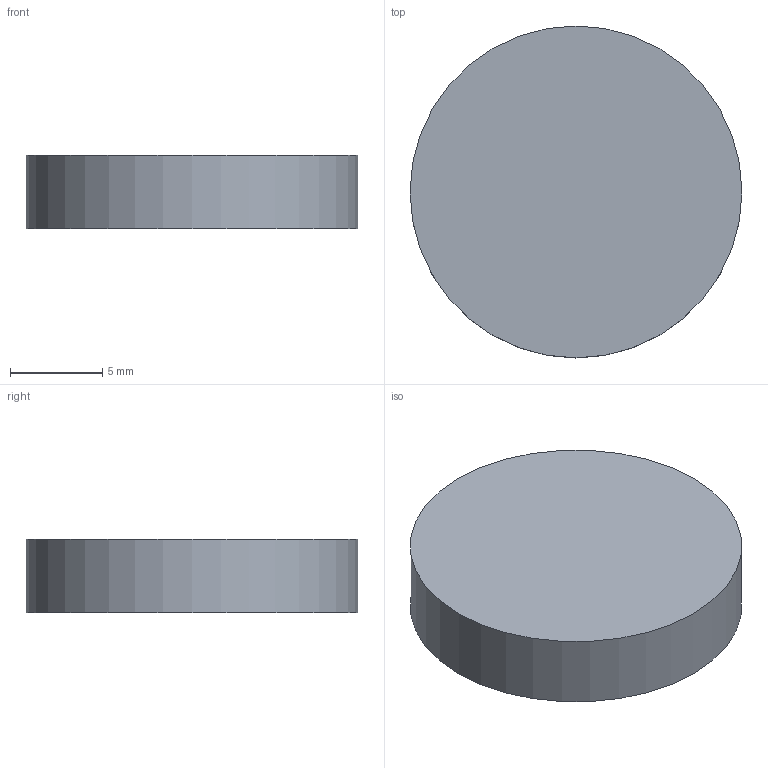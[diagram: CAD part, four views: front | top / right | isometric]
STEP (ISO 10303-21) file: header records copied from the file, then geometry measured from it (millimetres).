
FILE_DESCRIPTION(('Open CASCADE Model'),'2;1');
FILE_NAME('Open CASCADE Shape Model','2026-10-10T15:34:57',('Author'),( 'Open CASCADE'),'Open CASCADE STEP processor 7.9','Open CASCADE 7.9' ,'Unknown');
FILE_SCHEMA(('AUTOMOTIVE_DESIGN { 1 0 10303 214 1 1 1 1 }'));
Length unit declared in the file: millimetre
Products named in the file (1): Open CASCADE STEP translator 7.9 17
Bounding box: 18 x 18 x 4 mm (x, y, z)
Volume: 1017.9 mm3; surface area: 735.1 mm2
Topology: 1 solids, 1 shells, 3 faces, 3 edges, 2 vertices
Faces by surface type: plane 2, cylinder 1
Full cylindrical faces by diameter (mm): 18 x1
Entity records: 108 total; most frequent: DIRECTION 19, CARTESIAN_POINT 15, AXIS2_PLACEMENT_3D 6, ORIENTED_EDGE 6, PCURVE 6, DEFINITIONAL_REPRESENTATION 6, LINE 5, VECTOR 5
